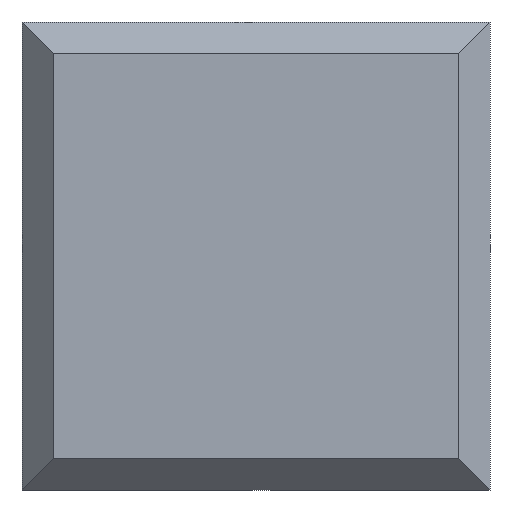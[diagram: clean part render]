
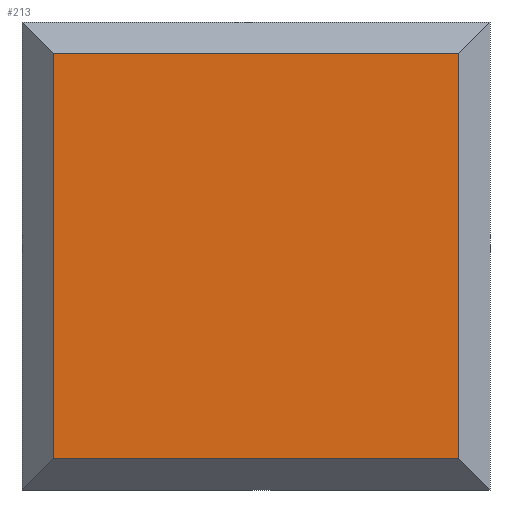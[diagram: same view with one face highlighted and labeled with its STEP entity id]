
A CAD part, front view. The second image highlights one B-rep face of the part: STEP entity #213.
In plain terms, the highlighted planar face has unit normal (0, -1, 0).
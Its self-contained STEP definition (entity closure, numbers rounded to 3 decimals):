
#5 = DIRECTION ( 'NONE',  ( 0., -1., 0. ) ) ;
#61 = DIRECTION ( 'NONE',  ( 1., 0., 0. ) ) ;
#65 = ORIENTED_EDGE ( 'NONE', *, *, #354, .T. ) ;
#67 = DIRECTION ( 'NONE',  ( 0., 0., -1. ) ) ;
#81 = CARTESIAN_POINT ( 'NONE',  ( -6.5, -6., 6.5 ) ) ;
#156 = EDGE_CURVE ( 'NONE', #885, #963, #958, .T. ) ;
#159 = VECTOR ( 'NONE', #67, 1000. ) ;
#199 = VECTOR ( 'NONE', #765, 1000. ) ;
#213 = ADVANCED_FACE ( 'NONE', ( #932 ), #371, .T. ) ;
#221 = EDGE_LOOP ( 'NONE', ( #883, #65, #792, #764 ) ) ;
#354 = EDGE_CURVE ( 'NONE', #885, #483, #423, .T. ) ;
#371 = PLANE ( 'NONE',  #761 ) ;
#412 = CARTESIAN_POINT ( 'NONE',  ( 6.5, -6., -6.5 ) ) ;
#423 = LINE ( 'NONE', #907, #199 ) ;
#483 = VERTEX_POINT ( 'NONE', #554 ) ;
#520 = DIRECTION ( 'NONE',  ( -1., 0., 0. ) ) ;
#523 = VERTEX_POINT ( 'NONE', #412 ) ;
#539 = CARTESIAN_POINT ( 'NONE',  ( 6.5, -6., 6.5 ) ) ;
#554 = CARTESIAN_POINT ( 'NONE',  ( -6.5, -6., -6.5 ) ) ;
#555 = LINE ( 'NONE', #601, #159 ) ;
#601 = CARTESIAN_POINT ( 'NONE',  ( 6.5, -6., 7.5 ) ) ;
#727 = EDGE_CURVE ( 'NONE', #963, #523, #555, .T. ) ;
#754 = LINE ( 'NONE', #835, #943 ) ;
#761 = AXIS2_PLACEMENT_3D ( 'NONE', #890, #5, #520 ) ;
#764 = ORIENTED_EDGE ( 'NONE', *, *, #727, .F. ) ;
#765 = DIRECTION ( 'NONE',  ( 0., 0., -1. ) ) ;
#766 = VECTOR ( 'NONE', #61, 1000. ) ;
#792 = ORIENTED_EDGE ( 'NONE', *, *, #925, .F. ) ;
#812 = CARTESIAN_POINT ( 'NONE',  ( 7.5, -6., 6.5 ) ) ;
#835 = CARTESIAN_POINT ( 'NONE',  ( 7.5, -6., -6.5 ) ) ;
#883 = ORIENTED_EDGE ( 'NONE', *, *, #156, .F. ) ;
#885 = VERTEX_POINT ( 'NONE', #81 ) ;
#890 = CARTESIAN_POINT ( 'NONE',  ( 6.5, -6., 6.5 ) ) ;
#907 = CARTESIAN_POINT ( 'NONE',  ( -6.5, -6., 6.5 ) ) ;
#909 = DIRECTION ( 'NONE',  ( -1., 0., 0. ) ) ;
#925 = EDGE_CURVE ( 'NONE', #523, #483, #754, .T. ) ;
#932 = FACE_OUTER_BOUND ( 'NONE', #221, .T. ) ;
#943 = VECTOR ( 'NONE', #909, 1000. ) ;
#958 = LINE ( 'NONE', #812, #766 ) ;
#963 = VERTEX_POINT ( 'NONE', #539 ) ;
